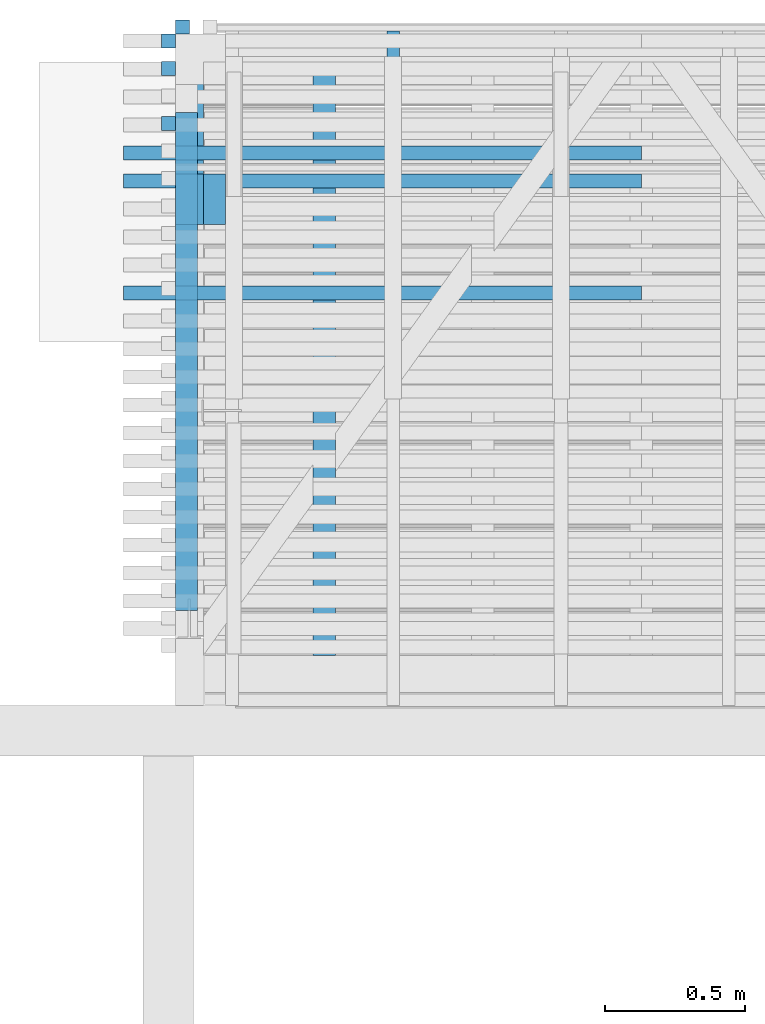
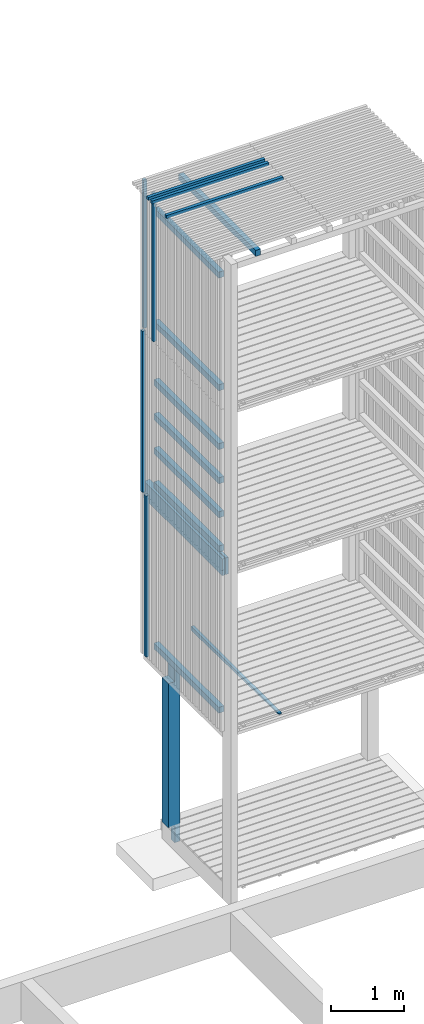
# One storey, part 144 of 182: 18 beams.
"""IFC2X3 building model written with IfcOpenShell, lengths in metres."""

from ifc_helpers import new_model, si_unit, frame, origin, place, context, project, spatial, faceted_brep, element, save


model = new_model("IFC2X3")

# Units and contexts
model_context = context("Model", 3, precision=1e-06, world=origin())
ifc_project = project(units=[si_unit("LENGTHUNIT", "METRE"), si_unit("PLANEANGLEUNIT", "RADIAN")], contexts=[model_context])

# Site, building, storey
site = spatial("IfcSite", under=ifc_project, CompositionType="ELEMENT")
building = spatial("IfcBuilding", under=site, CompositionType="ELEMENT")
storey = spatial("IfcBuildingStorey", under=building, Name="vs", CompositionType="ELEMENT", Elevation=-0.85)

# Beams
placement = place(None, origin())
beam_1_placement = place(placement, frame((33.029999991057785, 12.550532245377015, 7.974999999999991), z_axis=(1.0, 0.0, 0.0), x_axis=(0.0, 0.0, 1.0)))
element("IfcBeam", 1, at=beam_1_placement, inside=storey, Name="Bardage", context=model_context, shape_type="Brep", body=[
    faceted_brep([(0.0, -0.025000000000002, 0.025000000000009), (0.0, 0.025000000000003, 0.025000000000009), (0.0, 0.025000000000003, -0.025000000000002), (0.0, -0.025000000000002, -0.025000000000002), (2.479999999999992, 0.025000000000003, -0.025000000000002), (2.479999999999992, 0.025000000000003, 0.025000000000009), (2.479999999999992, -0.025000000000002, 0.025000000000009), (2.479999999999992, -0.025000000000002, -0.025000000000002), (0.0, 0.025000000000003, 0.025000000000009), (0.0, -0.025000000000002, 0.025000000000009), (2.479999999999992, -0.025000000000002, 0.025000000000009), (2.479999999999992, 0.025000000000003, 0.025000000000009), (0.0, 0.025000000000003, -0.025000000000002), (0.0, 0.025000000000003, 0.025000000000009), (2.479999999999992, 0.025000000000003, 0.025000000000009), (2.479999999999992, 0.025000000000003, -0.025000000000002), (0.0, -0.025000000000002, -0.025000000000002), (0.0, 0.025000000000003, -0.025000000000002), (2.479999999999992, 0.025000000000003, -0.025000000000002), (2.479999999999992, -0.025000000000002, -0.025000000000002), (2.479999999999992, -0.025000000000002, 0.025000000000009), (0.0, -0.025000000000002, 0.025000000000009), (0.0, -0.025000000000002, -0.025000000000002), (2.479999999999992, -0.025000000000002, -0.025000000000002)], [[[0, 1, 2, 3]], [[4, 5, 6, 7]], [[8, 9, 10, 11]], [[12, 13, 14, 15]], [[16, 17, 18, 19]], [[20, 21, 22, 23]]]),
])
beam_2_placement = place(placement, frame((33.029999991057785, 12.746895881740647, 2.575000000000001), z_axis=(1.0, 0.0, 0.0), x_axis=(0.0, 0.0, 1.0)))
element("IfcBeam", 2, at=beam_2_placement, inside=storey, Name="Bardage", context=model_context, shape_type="Brep", body=[
    faceted_brep([(2.699961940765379, -0.025000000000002, 0.025000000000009), (2.699961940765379, -0.025000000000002, -0.025000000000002), (2.699961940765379, 0.024999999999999, -0.025000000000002), (2.699961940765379, 0.024999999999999, 0.025000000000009), (0.0, -0.024999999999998, 0.025000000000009), (2.699961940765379, -0.025000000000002, 0.025000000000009), (2.699961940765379, 0.024999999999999, 0.025000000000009), (0.0, 0.024999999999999, 0.025000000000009), (0.0, -0.024999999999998, 0.025000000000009), (0.0, 0.024999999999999, 0.025000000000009), (0.0, 0.024999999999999, -0.025000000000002), (0.0, -0.024999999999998, -0.025000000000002), (0.0, -0.024999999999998, 0.025000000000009), (0.0, -0.024999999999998, -0.025000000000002), (2.699961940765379, -0.025000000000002, -0.025000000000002), (2.699961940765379, -0.025000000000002, 0.025000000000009), (0.0, -0.024999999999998, -0.025000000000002), (0.0, 0.024999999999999, -0.025000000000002), (2.699961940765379, 0.024999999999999, -0.025000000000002), (2.699961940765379, -0.025000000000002, -0.025000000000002), (0.0, 0.024999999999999, -0.025000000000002), (0.0, 0.024999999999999, 0.025000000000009), (2.699961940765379, 0.024999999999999, 0.025000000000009), (2.699961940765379, 0.024999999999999, -0.025000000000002)], [[[0, 1, 2, 3]], [[4, 5, 6, 7]], [[8, 9, 10, 11]], [[12, 13, 14, 15]], [[16, 17, 18, 19]], [[20, 21, 22, 23]]]),
])
beam_3_placement = place(placement, frame((33.07999999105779, 12.895077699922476, 7.974999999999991), z_axis=(0.0, -1.0, 0.0), x_axis=(0.0, 0.0, 1.0)))
element("IfcBeam", 3, at=beam_3_placement, inside=storey, Name="Bardage", context=model_context, shape_type="Brep", body=[
    faceted_brep([(2.479999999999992, -0.025000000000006, 0.025000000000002), (2.479999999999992, -0.024999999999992, -0.024999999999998), (2.479999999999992, 0.025000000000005, -0.024999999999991), (2.479999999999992, 0.024999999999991, 0.025000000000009), (0.0, 0.024999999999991, 0.025000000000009), (0.0, -0.025000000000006, 0.025000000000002), (2.479999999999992, -0.025000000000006, 0.025000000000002), (2.479999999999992, 0.024999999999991, 0.025000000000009), (0.0, -0.025000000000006, 0.025000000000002), (0.0, 0.024999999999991, 0.025000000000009), (0.0, 0.025000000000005, -0.024999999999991), (0.0, -0.024999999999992, -0.024999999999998), (0.0, 0.025000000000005, -0.024999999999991), (0.0, 0.024999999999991, 0.025000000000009), (2.479999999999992, 0.024999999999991, 0.025000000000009), (2.479999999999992, 0.025000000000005, -0.024999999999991), (0.0, -0.024999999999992, -0.024999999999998), (0.0, 0.025000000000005, -0.024999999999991), (2.479999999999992, 0.025000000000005, -0.024999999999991), (2.479999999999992, -0.024999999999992, -0.024999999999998), (2.479999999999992, -0.025000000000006, 0.025000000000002), (0.0, -0.025000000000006, 0.025000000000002), (0.0, -0.024999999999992, -0.024999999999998), (2.479999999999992, -0.024999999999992, -0.024999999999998)], [[[0, 1, 2, 3]], [[4, 5, 6, 7]], [[8, 9, 10, 11]], [[12, 13, 14, 15]], [[16, 17, 18, 19]], [[20, 21, 22, 23]]]),
])
beam_4_placement = place(placement, frame((33.029999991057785, 12.845077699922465, 5.274999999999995), z_axis=(1.0, 0.0, 0.0), x_axis=(0.0, 3e-15, 1.0)))
element("IfcBeam", 4, at=beam_4_placement, inside=storey, Name="Bardage", context=model_context, shape_type="Brep", body=[
    faceted_brep([(2.699999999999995, 0.02500000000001, 0.025000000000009), (2.699999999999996, -0.024999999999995, 0.025000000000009), (2.699999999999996, -0.024999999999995, -0.025000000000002), (2.699999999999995, 0.02500000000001, -0.025000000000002), (1e-15, 0.025000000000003, 0.025000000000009), (2.699999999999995, 0.02500000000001, 0.025000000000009), (2.699999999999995, 0.02500000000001, -0.025000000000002), (1e-15, 0.025000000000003, -0.025000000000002), (2e-15, -0.025000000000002, 0.025000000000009), (1e-15, 0.025000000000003, 0.025000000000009), (1e-15, 0.025000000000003, -0.025000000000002), (2e-15, -0.025000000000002, -0.025000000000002), (1e-15, 0.025000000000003, 0.025000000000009), (2e-15, -0.025000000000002, 0.025000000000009), (2.699999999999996, -0.024999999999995, 0.025000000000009), (2.699999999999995, 0.02500000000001, 0.025000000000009), (2e-15, -0.025000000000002, 0.025000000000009), (2e-15, -0.025000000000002, -0.025000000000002), (2.699999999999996, -0.024999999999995, -0.025000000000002), (2.699999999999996, -0.024999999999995, 0.025000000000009), (2e-15, -0.025000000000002, -0.025000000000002), (1e-15, 0.025000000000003, -0.025000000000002), (2.699999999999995, 0.02500000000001, -0.025000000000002), (2.699999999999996, -0.024999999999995, -0.025000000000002)], [[[0, 1, 2, 3]], [[4, 5, 6, 7]], [[8, 9, 10, 11]], [[12, 13, 14, 15]], [[16, 17, 18, 19]], [[20, 21, 22, 23]]]),
])
beam_5_placement = place(placement, frame((33.83299999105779, 10.470077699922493, 2.684400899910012), z_axis=(0.0, 0.0, 1.0), x_axis=(0.0, 1.0, 0.0)))
element("IfcBeam", 5, at=beam_5_placement, inside=storey, Name="Calage", context=model_context, shape_type="Brep", body=[
    faceted_brep([(2.41000000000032, -0.022500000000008, -0.035599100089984), (0.0, -0.022500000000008, 0.012600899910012), (0.0, 0.022499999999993, 0.012600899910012), (2.41000000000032, 0.022499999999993, -0.035599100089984), (0.0, 0.022499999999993, 0.035599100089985), (0.0, 0.022499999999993, 0.012600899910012), (0.0, -0.022500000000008, 0.012600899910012), (0.0, -0.022500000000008, 0.035599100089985), (2.41000000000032, 0.022499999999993, -0.035599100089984), (0.0, 0.022499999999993, 0.012600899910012), (0.0, 0.022499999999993, 0.035599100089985), (2.41000000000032, 0.022499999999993, 0.035599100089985), (2.41000000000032, -0.022500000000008, 0.035599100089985), (0.0, -0.022500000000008, 0.035599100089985), (0.0, -0.022500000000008, 0.012600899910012), (2.41000000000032, -0.022500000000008, -0.035599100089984), (2.41000000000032, 0.022499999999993, 0.035599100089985), (0.0, 0.022499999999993, 0.035599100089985), (0.0, -0.022500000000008, 0.035599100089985), (2.41000000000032, -0.022500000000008, 0.035599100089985), (2.41000000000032, 0.022499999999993, -0.035599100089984), (2.41000000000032, 0.022499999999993, 0.035599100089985), (2.41000000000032, -0.022500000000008, 0.035599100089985), (2.41000000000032, -0.022500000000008, -0.035599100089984)], [[[0, 1, 2, 3]], [[4, 5, 6, 7]], [[8, 9, 10, 11]], [[12, 13, 14, 15]], [[16, 17, 18, 19]], [[20, 21, 22, 23]]]),
])
beam_6_placement = place(placement, frame((34.719999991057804, 11.945077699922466, 10.47999999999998), z_axis=(0.0, 0.0, 1.0), x_axis=(-1.0, 0.0, 0.0)))
element("IfcBeam", 6, at=beam_6_placement, inside=storey, Name="Bardage", context=model_context, shape_type="Brep", body=[
    faceted_brep([(1.850000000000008, -0.025000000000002, -0.024999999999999), (1.850000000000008, -0.025000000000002, 0.025000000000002), (-1e-15, -0.025000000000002, 0.025000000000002), (-1e-15, -0.025000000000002, -0.024999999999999), (1.850000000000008, -0.025000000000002, 0.025000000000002), (1.850000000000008, -0.025000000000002, -0.024999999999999), (1.850000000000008, 0.025000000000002, -0.024999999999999), (1.850000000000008, 0.025000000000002, 0.025000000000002), (1.850000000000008, 0.025000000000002, -0.024999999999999), (1.850000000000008, -0.025000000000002, -0.024999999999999), (-1e-15, -0.025000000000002, -0.024999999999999), (-1e-15, 0.024999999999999, -0.024999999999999), (1.850000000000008, 0.025000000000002, 0.025000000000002), (1.850000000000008, 0.025000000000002, -0.024999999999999), (-1e-15, 0.024999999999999, -0.024999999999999), (-1e-15, 0.024999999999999, 0.025000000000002), (-1e-15, -0.025000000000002, 0.025000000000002), (1.850000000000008, -0.025000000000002, 0.025000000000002), (1.850000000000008, 0.025000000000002, 0.025000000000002), (-1e-15, 0.024999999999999, 0.025000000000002), (-1e-15, -0.025000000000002, -0.024999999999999), (-1e-15, -0.025000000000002, 0.025000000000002), (-1e-15, 0.024999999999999, 0.025000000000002), (-1e-15, 0.024999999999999, -0.024999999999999)], [[[0, 1, 2, 3]], [[4, 5, 6, 7]], [[8, 9, 10, 11]], [[12, 13, 14, 15]], [[16, 17, 18, 19]], [[20, 21, 22, 23]]]),
])
beam_7_placement = place(placement, frame((33.09499999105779, 10.8100776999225, 5.529999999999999), z_axis=(0.0, 0.0, 1.0), x_axis=(0.0, 1.0, 0.0)))
element("IfcBeam", 7, at=beam_7_placement, inside=storey, Name="Support bardage", context=model_context, shape_type="Brep", body=[
    faceted_brep([(1.779999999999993, 0.039999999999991, -0.050000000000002), (1.779999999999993, 0.039999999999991, 0.05), (1.779999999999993, -0.040000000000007, 0.05), (1.779999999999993, -0.040000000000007, -0.050000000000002), (1.779999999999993, -0.040000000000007, 0.05), (1.779999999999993, 0.039999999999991, 0.05), (-4e-15, 0.039999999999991, 0.05), (-4e-15, -0.040000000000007, 0.05), (-4e-15, 0.039999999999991, 0.05), (1.779999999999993, 0.039999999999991, 0.05), (1.779999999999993, 0.039999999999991, -0.050000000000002), (-4e-15, 0.039999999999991, -0.050000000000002), (1.779999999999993, -0.040000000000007, -0.050000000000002), (1.779999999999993, -0.040000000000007, 0.05), (-4e-15, -0.040000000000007, 0.05), (-4e-15, -0.040000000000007, -0.050000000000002), (-4e-15, 0.039999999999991, -0.050000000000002), (1.779999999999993, 0.039999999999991, -0.050000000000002), (1.779999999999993, -0.040000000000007, -0.050000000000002), (-4e-15, -0.040000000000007, -0.050000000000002), (-4e-15, 0.039999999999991, 0.05), (-4e-15, 0.039999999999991, -0.050000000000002), (-4e-15, -0.040000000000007, -0.050000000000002), (-4e-15, -0.040000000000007, 0.05)], [[[0, 1, 2, 3]], [[4, 5, 6, 7]], [[8, 9, 10, 11]], [[12, 13, 14, 15]], [[16, 17, 18, 19]], [[20, 21, 22, 23]]]),
])
beam_8_placement = place(placement, frame((34.719999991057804, 12.345077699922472, 10.47999999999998), z_axis=(0.0, 0.0, 1.0), x_axis=(-1.0, 0.0, 0.0)))
element("IfcBeam", 8, at=beam_8_placement, inside=storey, Name="Bardage", context=model_context, shape_type="Brep", body=[
    faceted_brep([(1.850000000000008, -0.024999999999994, -0.024999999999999), (1.850000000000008, -0.024999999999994, 0.025000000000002), (-1e-15, -0.024999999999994, 0.025000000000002), (-1e-15, -0.024999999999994, -0.024999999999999), (1.850000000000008, -0.024999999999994, 0.025000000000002), (1.850000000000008, -0.024999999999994, -0.024999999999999), (1.850000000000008, 0.025000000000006, -0.024999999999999), (1.850000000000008, 0.025000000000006, 0.025000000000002), (1.850000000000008, 0.025000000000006, -0.024999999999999), (1.850000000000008, -0.024999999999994, -0.024999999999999), (-1e-15, -0.024999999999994, -0.024999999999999), (-1e-15, 0.025000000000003, -0.024999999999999), (1.850000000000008, 0.025000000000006, 0.025000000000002), (1.850000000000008, 0.025000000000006, -0.024999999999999), (-1e-15, 0.025000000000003, -0.024999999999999), (-1e-15, 0.025000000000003, 0.025000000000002), (-1e-15, -0.024999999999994, 0.025000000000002), (1.850000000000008, -0.024999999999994, 0.025000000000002), (1.850000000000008, 0.025000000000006, 0.025000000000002), (-1e-15, 0.025000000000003, 0.025000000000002), (-1e-15, -0.024999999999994, -0.024999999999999), (-1e-15, -0.024999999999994, 0.025000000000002), (-1e-15, 0.025000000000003, 0.025000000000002), (-1e-15, 0.025000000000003, -0.024999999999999)], [[[0, 1, 2, 3]], [[4, 5, 6, 7]], [[8, 9, 10, 11]], [[12, 13, 14, 15]], [[16, 17, 18, 19]], [[20, 21, 22, 23]]]),
])
beam_9_placement = place(placement, frame((33.09499999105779, 10.8100776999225, 10.114999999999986), z_axis=(0.0, 0.0, 1.0), x_axis=(0.0, 1.0, 0.0)))
element("IfcBeam", 9, at=beam_9_placement, inside=storey, Name="Support bardage", context=model_context, shape_type="Brep", body=[
    faceted_brep([(1.779999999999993, 0.039999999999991, -0.050000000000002), (1.779999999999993, 0.039999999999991, 0.050000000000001), (1.779999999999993, -0.040000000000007, 0.050000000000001), (1.779999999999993, -0.040000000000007, -0.050000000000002), (1.779999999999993, -0.040000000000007, 0.050000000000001), (1.779999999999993, 0.039999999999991, 0.050000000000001), (-4e-15, 0.039999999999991, 0.050000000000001), (-4e-15, -0.040000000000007, 0.050000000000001), (-4e-15, 0.039999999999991, 0.050000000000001), (1.779999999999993, 0.039999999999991, 0.050000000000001), (1.779999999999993, 0.039999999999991, -0.050000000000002), (-4e-15, 0.039999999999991, -0.050000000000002), (1.779999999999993, -0.040000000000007, -0.050000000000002), (1.779999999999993, -0.040000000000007, 0.050000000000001), (-4e-15, -0.040000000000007, 0.050000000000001), (-4e-15, -0.040000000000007, -0.050000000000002), (-4e-15, 0.039999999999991, -0.050000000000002), (1.779999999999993, 0.039999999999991, -0.050000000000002), (1.779999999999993, -0.040000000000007, -0.050000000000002), (-4e-15, -0.040000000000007, -0.050000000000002), (-4e-15, 0.039999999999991, 0.050000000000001), (-4e-15, 0.039999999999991, -0.050000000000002), (-4e-15, -0.040000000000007, -0.050000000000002), (-4e-15, -0.040000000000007, 0.050000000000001)], [[[0, 1, 2, 3]], [[4, 5, 6, 7]], [[8, 9, 10, 11]], [[12, 13, 14, 15]], [[16, 17, 18, 19]], [[20, 21, 22, 23]]]),
])
beam_10_placement = place(placement, frame((34.719999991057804, 12.44507769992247, 10.47999999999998), z_axis=(0.0, 0.0, 1.0), x_axis=(-1.0, -2e-15, 0.0)))
element("IfcBeam", 10, at=beam_10_placement, inside=storey, Name="Bardage", context=model_context, shape_type="Brep", body=[
    faceted_brep([(1.850000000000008, -0.025000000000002, -0.024999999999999), (1.850000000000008, -0.025000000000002, 0.025000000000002), (-1e-15, -0.024999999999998, 0.025000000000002), (-1e-15, -0.024999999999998, -0.024999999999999), (1.850000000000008, -0.025000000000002, 0.025000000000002), (1.850000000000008, -0.025000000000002, -0.024999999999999), (1.850000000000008, 0.025000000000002, -0.024999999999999), (1.850000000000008, 0.025000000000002, 0.025000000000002), (1.850000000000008, 0.025000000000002, -0.024999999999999), (1.850000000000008, -0.025000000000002, -0.024999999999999), (-1e-15, -0.024999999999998, -0.024999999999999), (0.0, 0.025000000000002, -0.024999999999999), (1.850000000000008, 0.025000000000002, 0.025000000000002), (1.850000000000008, 0.025000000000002, -0.024999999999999), (0.0, 0.025000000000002, -0.024999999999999), (0.0, 0.025000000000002, 0.025000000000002), (-1e-15, -0.024999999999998, 0.025000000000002), (1.850000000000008, -0.025000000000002, 0.025000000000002), (1.850000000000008, 0.025000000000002, 0.025000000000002), (0.0, 0.025000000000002, 0.025000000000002), (-1e-15, -0.024999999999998, -0.024999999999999), (-1e-15, -0.024999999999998, 0.025000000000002), (0.0, 0.025000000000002, 0.025000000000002), (0.0, 0.025000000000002, -0.024999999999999)], [[[0, 1, 2, 3]], [[4, 5, 6, 7]], [[8, 9, 10, 11]], [[12, 13, 14, 15]], [[16, 17, 18, 19]], [[20, 21, 22, 23]]]),
])
beam_11_placement = place(placement, frame((33.09499999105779, 10.8100776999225, 2.830000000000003), z_axis=(0.0, 0.0, 1.0), x_axis=(0.0, 1.0, 0.0)))
element("IfcBeam", 11, at=beam_11_placement, inside=storey, Name="Support bardage", context=model_context, shape_type="Brep", body=[
    faceted_brep([(1.779999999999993, 0.039999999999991, -0.050000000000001), (1.779999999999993, 0.039999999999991, 0.05), (1.779999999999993, -0.040000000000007, 0.05), (1.779999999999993, -0.040000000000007, -0.050000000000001), (1.779999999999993, -0.040000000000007, 0.05), (1.779999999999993, 0.039999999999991, 0.05), (-4e-15, 0.039999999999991, 0.05), (-4e-15, -0.040000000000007, 0.05), (-4e-15, 0.039999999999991, 0.05), (1.779999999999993, 0.039999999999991, 0.05), (1.779999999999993, 0.039999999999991, -0.050000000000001), (-4e-15, 0.039999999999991, -0.050000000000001), (1.779999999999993, -0.040000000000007, -0.050000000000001), (1.779999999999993, -0.040000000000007, 0.05), (-4e-15, -0.040000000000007, 0.05), (-4e-15, -0.040000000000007, -0.050000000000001), (-4e-15, 0.039999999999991, -0.050000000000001), (1.779999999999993, 0.039999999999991, -0.050000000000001), (1.779999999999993, -0.040000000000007, -0.050000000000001), (-4e-15, -0.040000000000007, -0.050000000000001), (-4e-15, 0.039999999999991, 0.05), (-4e-15, 0.039999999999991, -0.050000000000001), (-4e-15, -0.040000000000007, -0.050000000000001), (-4e-15, -0.040000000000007, 0.05)], [[[0, 1, 2, 3]], [[4, 5, 6, 7]], [[8, 9, 10, 11]], [[12, 13, 14, 15]], [[16, 17, 18, 19]], [[20, 21, 22, 23]]]),
])
for number, where, z_axis, x_axis, name in (
    (12, (33.09499999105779, 10.8100776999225, 6.672499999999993), (0.0, 0.0, 1.0), (0.0, 1.0, 0.0), "Support bardage"),
    (13, (33.09499999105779, 10.8100776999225, 8.229999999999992), (0.0, 0.0, 1.0), (0.0, 1.0, 0.0), "Support bardage"),
):
    element("IfcBeam", number, at=place(placement, frame(where, z_axis=z_axis, x_axis=x_axis)), inside=storey, Name=name, context=model_context, shape_type="Brep", body=[
        faceted_brep([(1.779999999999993, 0.039999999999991, -0.05), (1.779999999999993, 0.039999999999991, 0.050000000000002), (1.779999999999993, -0.040000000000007, 0.050000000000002), (1.779999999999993, -0.040000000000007, -0.05), (1.779999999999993, -0.040000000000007, 0.050000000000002), (1.779999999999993, 0.039999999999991, 0.050000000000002), (-4e-15, 0.039999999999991, 0.050000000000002), (-4e-15, -0.040000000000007, 0.050000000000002), (-4e-15, 0.039999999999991, 0.050000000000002), (1.779999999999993, 0.039999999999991, 0.050000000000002), (1.779999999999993, 0.039999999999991, -0.05), (-4e-15, 0.039999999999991, -0.05), (1.779999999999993, -0.040000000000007, -0.05), (1.779999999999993, -0.040000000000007, 0.050000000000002), (-4e-15, -0.040000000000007, 0.050000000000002), (-4e-15, -0.040000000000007, -0.05), (-4e-15, 0.039999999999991, -0.05), (1.779999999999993, 0.039999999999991, -0.05), (1.779999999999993, -0.040000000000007, -0.05), (-4e-15, -0.040000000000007, -0.05), (-4e-15, 0.039999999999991, 0.050000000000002), (-4e-15, 0.039999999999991, -0.05), (-4e-15, -0.040000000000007, -0.05), (-4e-15, -0.040000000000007, 0.050000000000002)], [[[0, 1, 2, 3]], [[4, 5, 6, 7]], [[8, 9, 10, 11]], [[12, 13, 14, 15]], [[16, 17, 18, 19]], [[20, 21, 22, 23]]]),
    ])
beam_12_placement = place(placement, frame((33.09499999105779, 10.8100776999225, 7.24374999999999), z_axis=(0.0, 0.0, 1.0), x_axis=(0.0, 1.0, 0.0)))
element("IfcBeam", 14, at=beam_12_placement, inside=storey, Name="Support bardage", context=model_context, shape_type="Brep", body=[
    faceted_brep([(1.779999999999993, 0.039999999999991, -0.049999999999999), (1.779999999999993, 0.039999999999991, 0.050000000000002), (1.779999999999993, -0.040000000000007, 0.050000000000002), (1.779999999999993, -0.040000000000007, -0.049999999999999), (1.779999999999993, -0.040000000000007, 0.050000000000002), (1.779999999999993, 0.039999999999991, 0.050000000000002), (-4e-15, 0.039999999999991, 0.050000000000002), (-4e-15, -0.040000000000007, 0.050000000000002), (-4e-15, 0.039999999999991, 0.050000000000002), (1.779999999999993, 0.039999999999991, 0.050000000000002), (1.779999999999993, 0.039999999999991, -0.049999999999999), (-4e-15, 0.039999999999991, -0.049999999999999), (1.779999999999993, -0.040000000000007, -0.049999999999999), (1.779999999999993, -0.040000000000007, 0.050000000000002), (-4e-15, -0.040000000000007, 0.050000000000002), (-4e-15, -0.040000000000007, -0.049999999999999), (-4e-15, 0.039999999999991, -0.049999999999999), (1.779999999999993, 0.039999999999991, -0.049999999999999), (1.779999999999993, -0.040000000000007, -0.049999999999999), (-4e-15, -0.040000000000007, -0.049999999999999), (-4e-15, 0.039999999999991, 0.050000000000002), (-4e-15, 0.039999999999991, -0.049999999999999), (-4e-15, -0.040000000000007, -0.049999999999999), (-4e-15, -0.040000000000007, 0.050000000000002)], [[[0, 1, 2, 3]], [[4, 5, 6, 7]], [[8, 9, 10, 11]], [[12, 13, 14, 15]], [[16, 17, 18, 19]], [[20, 21, 22, 23]]]),
])
beam_13_placement = place(placement, frame((33.09499999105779, 10.8100776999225, 6.101249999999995), z_axis=(0.0, 0.0, 1.0), x_axis=(0.0, 1.0, 0.0)))
element("IfcBeam", 15, at=beam_13_placement, inside=storey, Name="Support bardage", context=model_context, shape_type="Brep", body=[
    faceted_brep([(1.779999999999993, 0.039999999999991, -0.05), (1.779999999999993, 0.039999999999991, 0.050000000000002), (1.779999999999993, -0.040000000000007, 0.050000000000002), (1.779999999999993, -0.040000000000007, -0.05), (1.779999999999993, -0.040000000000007, 0.050000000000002), (1.779999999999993, 0.039999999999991, 0.050000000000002), (-4e-15, 0.039999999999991, 0.050000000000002), (-4e-15, -0.040000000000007, 0.050000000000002), (-4e-15, 0.039999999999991, 0.050000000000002), (1.779999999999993, 0.039999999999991, 0.050000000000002), (1.779999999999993, 0.039999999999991, -0.05), (-4e-15, 0.039999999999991, -0.05), (1.779999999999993, -0.040000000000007, -0.05), (1.779999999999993, -0.040000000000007, 0.050000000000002), (-4e-15, -0.040000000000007, 0.050000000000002), (-4e-15, -0.040000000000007, -0.05), (-4e-15, 0.039999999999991, -0.05), (1.779999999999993, 0.039999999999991, -0.05), (1.779999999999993, -0.040000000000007, -0.05), (-4e-15, -0.040000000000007, -0.05), (-4e-15, 0.039999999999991, 0.050000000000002), (-4e-15, 0.039999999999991, -0.05), (-4e-15, -0.040000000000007, -0.05), (-4e-15, -0.040000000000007, 0.050000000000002)], [[[0, 1, 2, 3]], [[4, 5, 6, 7]], [[8, 9, 10, 11]], [[12, 13, 14, 15]], [[16, 17, 18, 19]], [[20, 21, 22, 23]]]),
])
beam_14_placement = place(placement, frame((33.14499999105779, 12.280077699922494, -0.259999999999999), z_axis=(0.0, -1.0, 0.0), x_axis=(0.0, 0.0, 1.0)))
element("IfcBeam", 16, at=beam_14_placement, inside=storey, Name="Poteau", context=model_context, shape_type="Brep", body=[
    faceted_brep([(0.0, -0.010000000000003, 0.090000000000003), (0.0, -0.010000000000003, -0.009999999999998), (0.0, -0.090000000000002, -0.009999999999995), (0.0, -0.090000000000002, 0.090000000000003), (0.280000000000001, -0.010000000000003, -0.089999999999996), (0.28, -0.010000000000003, 0.090000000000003), (0.28, 0.089999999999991, 0.090000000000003), (0.280000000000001, 0.089999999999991, -0.089999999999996), (0.200000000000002, -0.090000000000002, -0.009999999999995), (0.200000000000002, -0.010000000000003, -0.009999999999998), (0.200000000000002, -0.010000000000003, -0.089999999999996), (0.200000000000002, -0.090000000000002, -0.089999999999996), (0.0, -0.010000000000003, -0.009999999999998), (0.0, -0.010000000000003, 0.090000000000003), (0.28, -0.010000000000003, 0.090000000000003), (0.280000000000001, -0.010000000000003, -0.089999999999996), (0.200000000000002, -0.010000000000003, -0.089999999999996), (0.200000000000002, -0.010000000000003, -0.009999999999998), (0.0, -0.010000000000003, -0.009999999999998), (0.200000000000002, -0.010000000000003, -0.009999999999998), (0.200000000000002, -0.090000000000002, -0.009999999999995), (0.0, -0.090000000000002, -0.009999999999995), (0.280000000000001, 0.089999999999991, -0.089999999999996), (0.28, 0.089999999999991, 0.090000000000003), (2.699999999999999, 0.089999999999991, 0.090000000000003), (2.699999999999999, 0.089999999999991, -0.089999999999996), (2.979999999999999, -0.010000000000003, 0.090000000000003), (2.699999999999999, -0.010000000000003, 0.090000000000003), (2.699999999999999, 0.089999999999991, 0.090000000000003), (0.28, 0.089999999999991, 0.090000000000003), (0.28, -0.010000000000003, 0.090000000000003), (0.0, -0.010000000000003, 0.090000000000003), (0.0, -0.090000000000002, 0.090000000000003), (2.979999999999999, -0.090000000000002, 0.090000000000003), (2.979999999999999, -0.090000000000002, 0.090000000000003), (0.0, -0.090000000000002, 0.090000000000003), (0.0, -0.090000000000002, -0.009999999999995), (0.200000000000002, -0.090000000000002, -0.009999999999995), (0.200000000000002, -0.090000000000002, -0.089999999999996), (2.979999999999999, -0.090000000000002, -0.089999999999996), (2.979999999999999, -0.010000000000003, -0.089999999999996), (2.979999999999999, -0.090000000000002, -0.089999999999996), (0.200000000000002, -0.090000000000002, -0.089999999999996), (0.200000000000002, -0.010000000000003, -0.089999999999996), (0.280000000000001, -0.010000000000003, -0.089999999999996), (0.280000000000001, 0.089999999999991, -0.089999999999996), (2.699999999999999, 0.089999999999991, -0.089999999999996), (2.699999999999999, -0.010000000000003, -0.089999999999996), (2.699999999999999, -0.010000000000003, -0.089999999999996), (2.699999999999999, 0.089999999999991, -0.089999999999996), (2.699999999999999, 0.089999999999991, 0.090000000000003), (2.699999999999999, -0.010000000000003, 0.090000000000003), (2.979999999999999, -0.010000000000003, -0.089999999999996), (2.699999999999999, -0.010000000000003, -0.089999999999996), (2.699999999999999, -0.010000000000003, 0.090000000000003), (2.979999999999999, -0.010000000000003, 0.090000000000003), (2.979999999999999, -0.010000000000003, -0.089999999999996), (2.979999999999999, -0.010000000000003, 0.090000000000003), (2.979999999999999, -0.090000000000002, 0.090000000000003), (2.979999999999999, -0.090000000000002, -0.089999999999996)], [[[0, 1, 2, 3]], [[4, 5, 6, 7]], [[8, 9, 10, 11]], [[12, 13, 14, 15, 16, 17]], [[18, 19, 20, 21]], [[22, 23, 24, 25]], [[26, 27, 28, 29, 30, 31, 32, 33]], [[34, 35, 36, 37, 38, 39]], [[40, 41, 42, 43, 44, 45, 46, 47]], [[48, 49, 50, 51]], [[52, 53, 54, 55]], [[56, 57, 58, 59]]]),
])
beam_15_placement = place(placement, frame((33.104999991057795, 10.715077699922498, 5.279999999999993), z_axis=(0.0, 0.0, 1.0), x_axis=(0.0, 1.0, 0.0)))
element("IfcBeam", 17, at=beam_15_placement, inside=storey, Name="Sommier", context=model_context, shape_type="Brep", body=[
    faceted_brep([(2.154999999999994, 0.049999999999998, 0.140000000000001), (2.154999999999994, -0.049999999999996, 0.140000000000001), (2.154999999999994, -0.049999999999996, -0.140000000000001), (2.154999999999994, 0.049999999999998, -0.140000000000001), (0.771999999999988, -0.049999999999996, -0.140000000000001), (0.771999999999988, -0.049999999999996, 0.034999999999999), (0.847999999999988, -0.049999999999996, 0.034999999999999), (0.847999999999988, -0.049999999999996, -0.140000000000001), (2.154999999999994, -0.049999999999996, -0.140000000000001), (2.154999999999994, -0.049999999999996, 0.140000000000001), (0.0, -0.049999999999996, 0.140000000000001), (0.0, -0.049999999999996, -0.140000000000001), (0.771999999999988, -0.045000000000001, -0.140000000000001), (0.847999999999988, -0.045000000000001, -0.140000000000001), (0.847999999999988, -0.045000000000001, 0.034999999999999), (0.771999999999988, -0.045000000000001, 0.034999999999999), (0.771999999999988, -0.045000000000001, 0.034999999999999), (0.847999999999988, -0.045000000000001, 0.034999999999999), (0.847999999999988, -0.049999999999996, 0.034999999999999), (0.771999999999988, -0.049999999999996, 0.034999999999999), (0.847999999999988, -0.045000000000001, 0.034999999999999), (0.847999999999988, -0.045000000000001, -0.140000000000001), (0.847999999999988, -0.049999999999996, -0.140000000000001), (0.847999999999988, -0.049999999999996, 0.034999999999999), (0.771999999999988, -0.049999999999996, 0.034999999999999), (0.771999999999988, -0.049999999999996, -0.140000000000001), (0.771999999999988, -0.045000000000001, -0.140000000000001), (0.771999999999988, -0.045000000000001, 0.034999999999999), (2.154999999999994, 0.049999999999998, 0.140000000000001), (2.154999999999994, 0.049999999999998, -0.140000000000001), (0.0, 0.049999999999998, -0.140000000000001), (0.0, 0.049999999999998, 0.140000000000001), (0.0, -0.00399999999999, 0.140000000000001), (0.0, -0.049999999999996, 0.140000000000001), (2.154999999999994, -0.049999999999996, 0.140000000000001), (2.154999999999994, 0.049999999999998, 0.140000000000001), (0.0, 0.049999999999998, 0.140000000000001), (0.0, 0.004000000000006, 0.140000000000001), (0.137, 0.004000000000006, 0.140000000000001), (0.137, -0.00399999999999, 0.140000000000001), (0.0, 0.004000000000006, -0.140000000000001), (0.0, 0.004000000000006, 0.140000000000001), (0.0, 0.049999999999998, 0.140000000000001), (0.0, 0.049999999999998, -0.140000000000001), (0.0, -0.049999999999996, 0.140000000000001), (0.0, -0.00399999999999, 0.140000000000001), (0.0, -0.00399999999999, -0.140000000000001), (0.0, -0.049999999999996, -0.140000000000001), (0.0, 0.049999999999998, -0.140000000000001), (2.154999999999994, 0.049999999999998, -0.140000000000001), (2.154999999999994, -0.049999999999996, -0.140000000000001), (0.847999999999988, -0.049999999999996, -0.140000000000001), (0.847999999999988, -0.045000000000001, -0.140000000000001), (0.771999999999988, -0.045000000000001, -0.140000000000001), (0.771999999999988, -0.049999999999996, -0.140000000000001), (0.0, -0.049999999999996, -0.140000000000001), (0.0, -0.00399999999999, -0.140000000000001), (0.137, -0.00399999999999, -0.140000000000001), (0.137, 0.004000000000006, -0.140000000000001), (0.0, 0.004000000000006, -0.140000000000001), (0.137, 0.004000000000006, -0.140000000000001), (0.137, -0.00399999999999, -0.140000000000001), (0.137, -0.00399999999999, 0.140000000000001), (0.137, 0.004000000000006, 0.140000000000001), (0.0, -0.00399999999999, 0.140000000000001), (0.137, -0.00399999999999, 0.140000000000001), (0.137, -0.00399999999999, -0.140000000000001), (0.0, -0.00399999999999, -0.140000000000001), (0.137, 0.004000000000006, 0.140000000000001), (0.0, 0.004000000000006, 0.140000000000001), (0.0, 0.004000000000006, -0.140000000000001), (0.137, 0.004000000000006, -0.140000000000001)], [[[0, 1, 2, 3]], [[4, 5, 6, 7, 8, 9, 10, 11]], [[12, 13, 14, 15]], [[16, 17, 18, 19]], [[20, 21, 22, 23]], [[24, 25, 26, 27]], [[28, 29, 30, 31]], [[32, 33, 34, 35, 36, 37, 38, 39]], [[40, 41, 42, 43]], [[44, 45, 46, 47]], [[48, 49, 50, 51, 52, 53, 54, 55, 56, 57, 58, 59]], [[60, 61, 62, 63]], [[64, 65, 66, 67]], [[68, 69, 70, 71]]]),
])
beam_16_placement = place(placement, frame((33.586666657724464, 10.650077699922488, 10.404999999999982), z_axis=(0.0, 0.0, 1.0), x_axis=(0.0, 1.0, 0.0)))
element("IfcBeam", 18, at=beam_16_placement, inside=storey, Name="Support bardage", context=model_context, shape_type="Brep", body=[
    faceted_brep([(2.120000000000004, -0.039999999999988, 0.050000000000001), (2.120000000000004, 0.04000000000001, 0.050000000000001), (3e-15, 0.04000000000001, 0.050000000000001), (3e-15, -0.039999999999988, 0.050000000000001), (3e-15, 0.04000000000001, 0.050000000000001), (2.120000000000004, 0.04000000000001, 0.050000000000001), (2.120000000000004, 0.04000000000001, -0.050000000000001), (3e-15, 0.04000000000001, -0.050000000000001), (2.120000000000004, 0.04000000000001, 0.050000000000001), (2.120000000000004, -0.039999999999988, 0.050000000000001), (2.120000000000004, -0.039999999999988, -0.050000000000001), (2.120000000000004, 0.04000000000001, -0.050000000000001), (2.120000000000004, -0.039999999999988, -0.050000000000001), (2.120000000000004, -0.039999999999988, 0.050000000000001), (3e-15, -0.039999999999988, 0.050000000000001), (3e-15, -0.039999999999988, -0.050000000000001), (3e-15, 0.04000000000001, -0.050000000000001), (2.120000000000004, 0.04000000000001, -0.050000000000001), (2.120000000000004, -0.039999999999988, -0.050000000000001), (3e-15, -0.039999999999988, -0.050000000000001), (3e-15, 0.04000000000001, 0.050000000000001), (3e-15, 0.04000000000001, -0.050000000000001), (3e-15, -0.039999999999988, -0.050000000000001), (3e-15, -0.039999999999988, 0.050000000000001)], [[[0, 1, 2, 3]], [[4, 5, 6, 7]], [[8, 9, 10, 11]], [[12, 13, 14, 15]], [[16, 17, 18, 19]], [[20, 21, 22, 23]]]),
])

save(model, "model.ifc")
